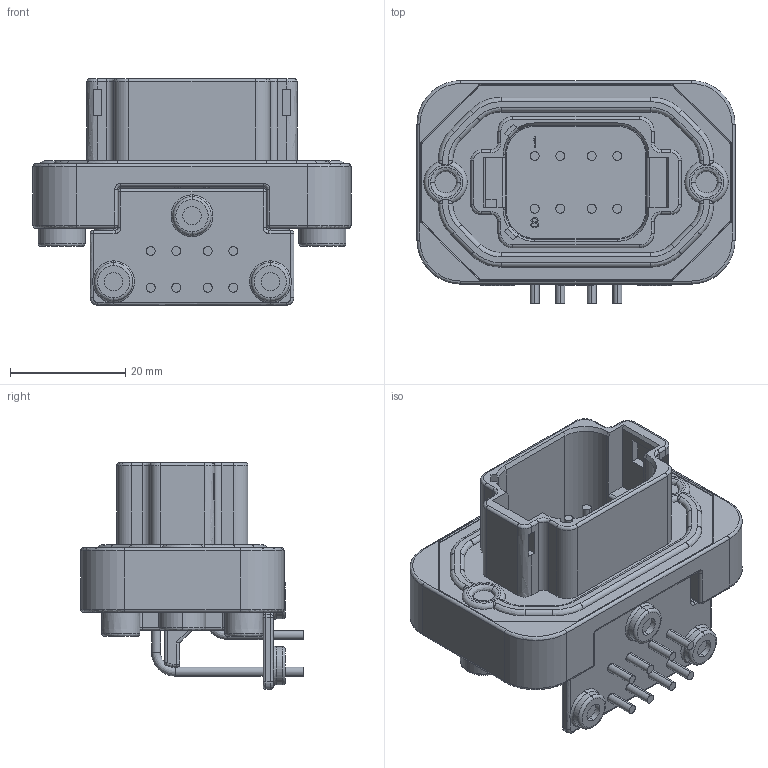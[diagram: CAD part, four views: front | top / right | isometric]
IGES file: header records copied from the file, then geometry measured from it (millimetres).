
Start section:  PTC IGES file: c-dt13-08pb-g003-99-3d.igs
Global section: file name: c-dt13-08pb-g003-99-3d.igs; native system: Pro/ENGINEER by Parametric Technology Corporation; preprocessor: 2010430; author: workeradm; organization: Unknown; units: millimetre
Bounding box: 55.12 x 38.58 x 39.24 mm (x, y, z)
Surface area: 12974 mm2 (no closed solid volume)
Topology: 0 solids, 0 shells, 657 faces, 3312 edges, 3312 vertices
Faces by surface type: revolution 415, bspline 242
